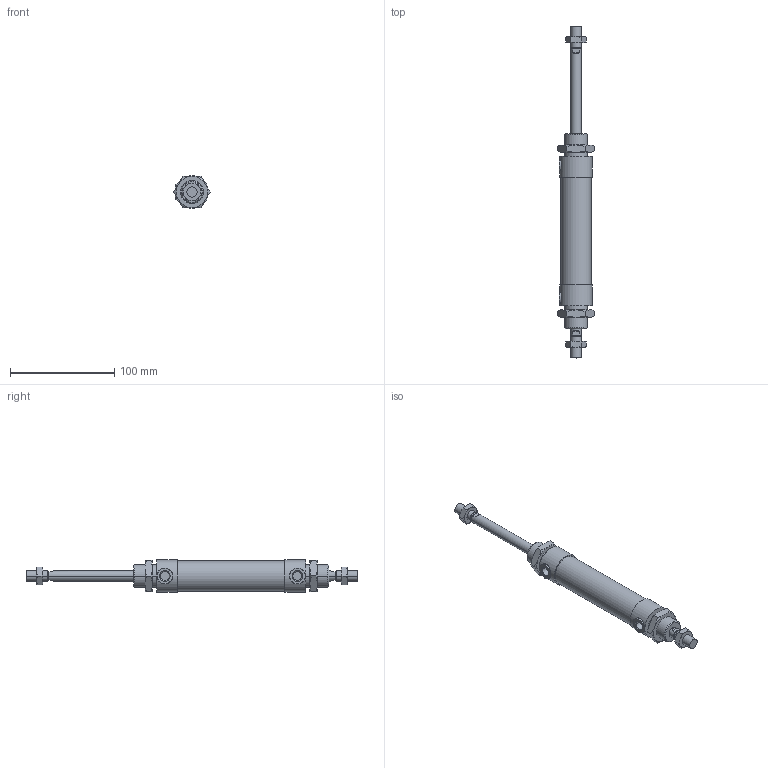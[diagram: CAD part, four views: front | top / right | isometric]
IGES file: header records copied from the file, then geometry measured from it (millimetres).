
Global section: file name: No Iges File Name specified; native system: AutoDesk Inventor R10; preprocessor: AutoDesk Inventor Iges Exporter R10; author: No Author specified; organization: No Organization specified; date: 20060105.143606; units: millimetre
Bounding box: 34.64 x 318 x 31.5 mm (x, y, z)
Volume: 133443.8 mm3; surface area: 40228.5 mm2
Topology: 6 solids, 6 shells, 185 faces, 397 edges, 232 vertices
Faces by surface type: cone 68, plane 62, cylinder 21, bspline 20, revolution 14
Full cylindrical faces by diameter (mm): 29 x1, 31.5 x2
